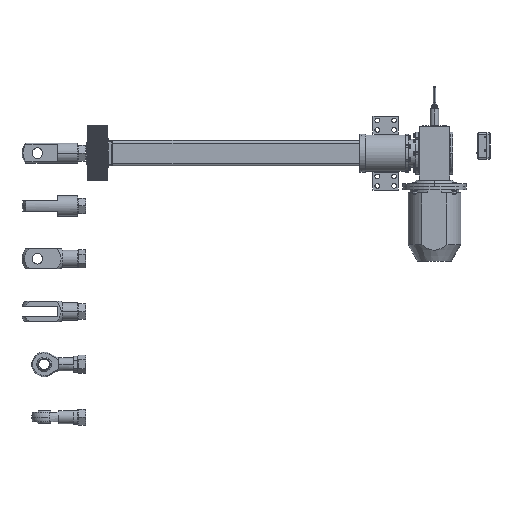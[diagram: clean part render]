
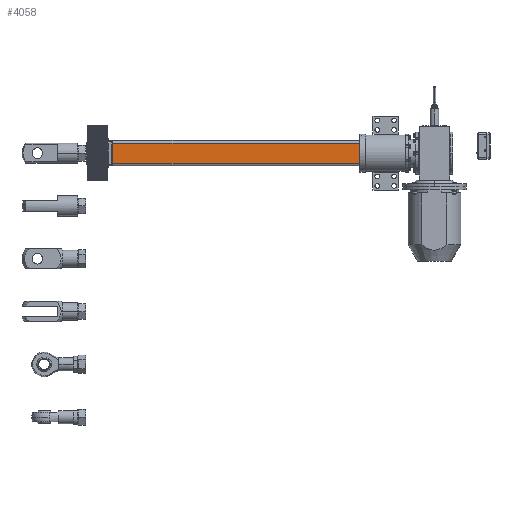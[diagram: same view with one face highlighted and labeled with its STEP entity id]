
A CAD part, front view. The second image highlights one B-rep face of the part: STEP entity #4058.
In plain terms, the highlighted planar face has unit normal (0, -1, 0).
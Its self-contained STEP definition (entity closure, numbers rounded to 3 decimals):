
#1712 = ORIENTED_EDGE ( 'NONE', *, *, #51554, .T. ) ;
#1713 = ORIENTED_EDGE ( 'NONE', *, *, #51555, .T. ) ;
#1714 = ORIENTED_EDGE ( 'NONE', *, *, #51556, .F. ) ;
#1715 = ORIENTED_EDGE ( 'NONE', *, *, #51520, .F. ) ;
#2191 = VERTEX_POINT ( 'NONE', #6868 ) ;
#2193 = VERTEX_POINT ( 'NONE', #6870 ) ;
#2205 = VERTEX_POINT ( 'NONE', #6882 ) ;
#2224 = VERTEX_POINT ( 'NONE', #6901 ) ;
#4058 = ADVANCED_FACE ( 'NONE', ( #34468 ), #41601, .F. ) ;
#6868 = CARTESIAN_POINT ( 'NONE',  ( 1180., -60., 48. ) ) ;
#6870 = CARTESIAN_POINT ( 'NONE',  ( 1180., -60., -48. ) ) ;
#6882 = CARTESIAN_POINT ( 'NONE',  ( 2., -60., -48. ) ) ;
#6901 = CARTESIAN_POINT ( 'NONE',  ( 2., -60., 48. ) ) ;
#20353 = AXIS2_PLACEMENT_3D ( 'NONE', #41595, #41604, #41605 ) ;
#34468 = FACE_OUTER_BOUND ( 'NONE', #50758, .T. ) ;
#41595 = CARTESIAN_POINT ( 'NONE',  ( 1180., -60., 48. ) ) ;
#41601 = PLANE ( 'NONE',  #20353 ) ;
#41604 = DIRECTION ( 'NONE',  ( 0., 1., 0. ) ) ;
#41605 = DIRECTION ( 'NONE',  ( 0., 0., 1. ) ) ;
#50758 = EDGE_LOOP ( 'NONE', ( #1712, #1713, #1714, #1715 ) ) ;
#51520 = EDGE_CURVE ( 'NONE', #2191, #2193, #61778, .T. ) ;
#51554 = EDGE_CURVE ( 'NONE', #2191, #2224, #61828, .T. ) ;
#51555 = EDGE_CURVE ( 'NONE', #2224, #2205, #61826, .T. ) ;
#51556 = EDGE_CURVE ( 'NONE', #2193, #2205, #61831, .T. ) ;
#59315 = CARTESIAN_POINT ( 'NONE',  ( 1180., -60., 48. ) ) ;
#59316 = DIRECTION ( 'NONE',  ( 0., 0., -1. ) ) ;
#59392 = DIRECTION ( 'NONE',  ( -1., 0., 0. ) ) ;
#59397 = CARTESIAN_POINT ( 'NONE',  ( 1180., -60., 48. ) ) ;
#59399 = CARTESIAN_POINT ( 'NONE',  ( 2., -60., 48. ) ) ;
#59404 = DIRECTION ( 'NONE',  ( 0., 0., -1. ) ) ;
#59405 = CARTESIAN_POINT ( 'NONE',  ( 1180., -60., -48. ) ) ;
#59407 = DIRECTION ( 'NONE',  ( -1., 0., 0. ) ) ;
#61778 = LINE ( 'NONE', #59315, #61779 ) ;
#61779 = VECTOR ( 'NONE', #59316, 1000. ) ;
#61826 = LINE ( 'NONE', #59399, #61832 ) ;
#61828 = LINE ( 'NONE', #59397, #61830 ) ;
#61830 = VECTOR ( 'NONE', #59392, 1000. ) ;
#61831 = LINE ( 'NONE', #59405, #61834 ) ;
#61832 = VECTOR ( 'NONE', #59404, 1000. ) ;
#61834 = VECTOR ( 'NONE', #59407, 1000. ) ;
